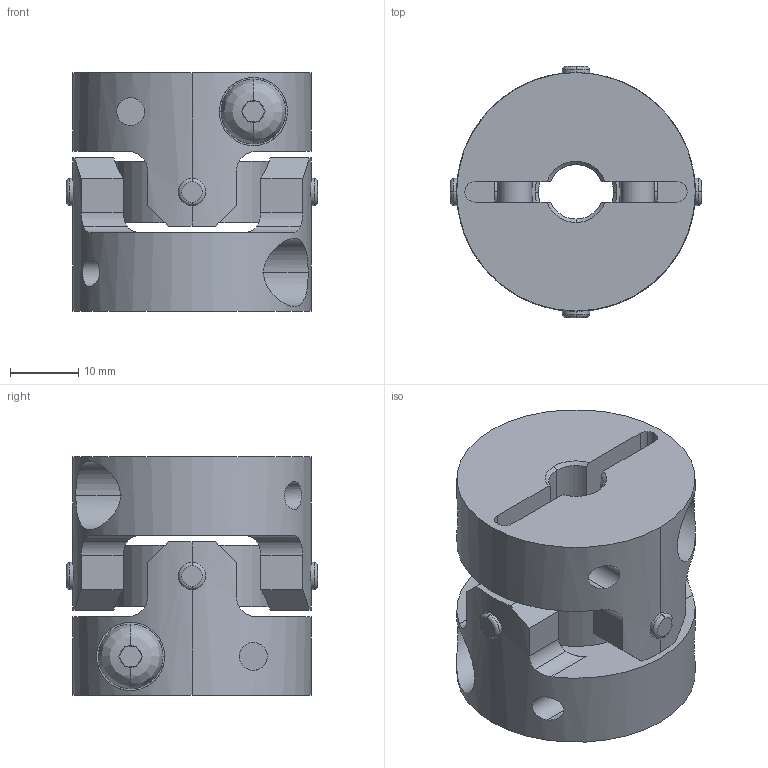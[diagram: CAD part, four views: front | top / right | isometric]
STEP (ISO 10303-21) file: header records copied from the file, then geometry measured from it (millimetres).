
FILE_DESCRIPTION((''),'2;1');
FILE_NAME('UA-35C-8×11.stp','2013-05-22T08:45:49',(''),(''),'AutoCAD STEP 2000i','AutoCAD 2000i',', , ');
FILE_SCHEMA(('CONFIG_CONTROL_DESIGN'));
Length unit declared in the file: millimetre
Products named in the file (6): UA-35C-8×8; 忣兜1; UA-3502-D08-1; BTN-M5; UA-3502-D08; UA35-SEN
Assembly tree (6 placements, depth 3):
  UA-35C-8×8
    忣兜1
    UA-3502-D08-1
      BTN-M5
    UA-3502-D08
      BTN-M5
    UA35-SEN
Bounding box: 36.83 x 36.83 x 35 mm (x, y, z)
Volume: 22941.9 mm3; surface area: 12009.5 mm2
Topology: 1 solids, 1 shells, 250 faces, 646 edges, 408 vertices
Faces by surface type: plane 122, cylinder 96, cone 16, bspline 8, torus 8
Entity records: 9647 total; most frequent: CARTESIAN_POINT 3391, ORIENTED_EDGE 1292, DIRECTION 1288, EDGE_CURVE 646, AXIS2_PLACEMENT_3D 497, VERTEX_POINT 408, VECTOR 294, LINE 294
